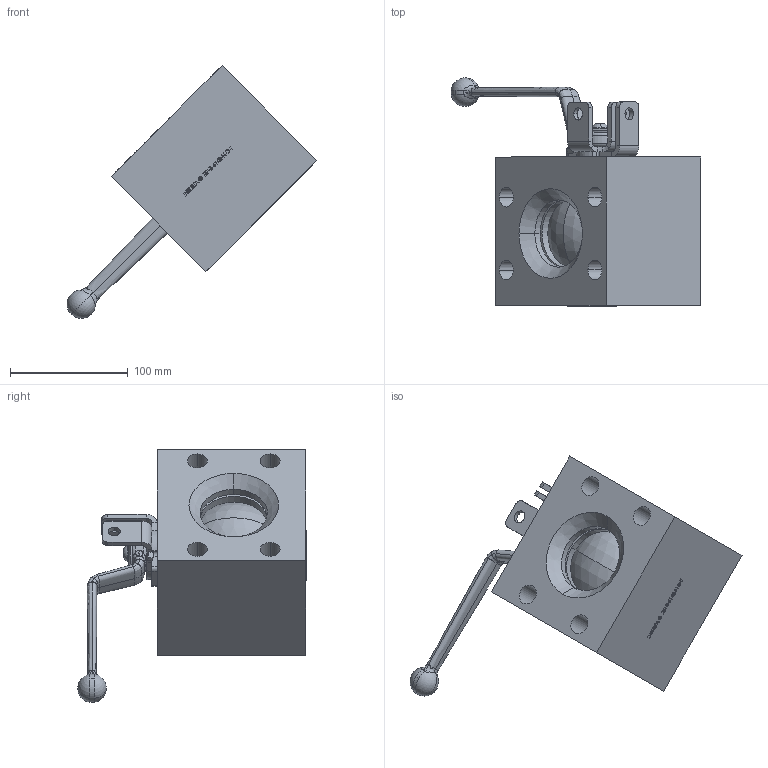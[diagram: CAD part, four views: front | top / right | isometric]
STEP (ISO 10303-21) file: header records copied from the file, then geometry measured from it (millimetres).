
FILE_DESCRIPTION (( 'STEP AP214' ), '1' );
FILE_NAME ('IBF-B-6148-N-D-T-Closed.STEP', '2026-01-29T14:42:46', ( '' ), ( '' ), 'SwSTEP 2.0', 'SolidWorks 2025', '' );
FILE_SCHEMA (( 'AUTOMOTIVE_DESIGN' ));
Length unit declared in the file: inch
Products named in the file (1): IBF-B-6148-N-D-T-Closed
Bounding box: 212.33 x 194.27 x 214.76 mm (x, y, z)
Volume: 1502941.2 mm3; surface area: 232821.2 mm2
Topology: 1 solids, 1 shells, 960 faces, 2698 edges, 1774 vertices
Faces by surface type: plane 498, bspline 215, cylinder 162, cone 31, torus 29, sphere 25
Entity records: 55227 total; most frequent: CARTESIAN_POINT 32285, ORIENTED_EDGE 5392, DIRECTION 3836, EDGE_CURVE 2696, VERTEX_POINT 1774, LINE 1370, VECTOR 1370, AXIS2_PLACEMENT_3D 1233
